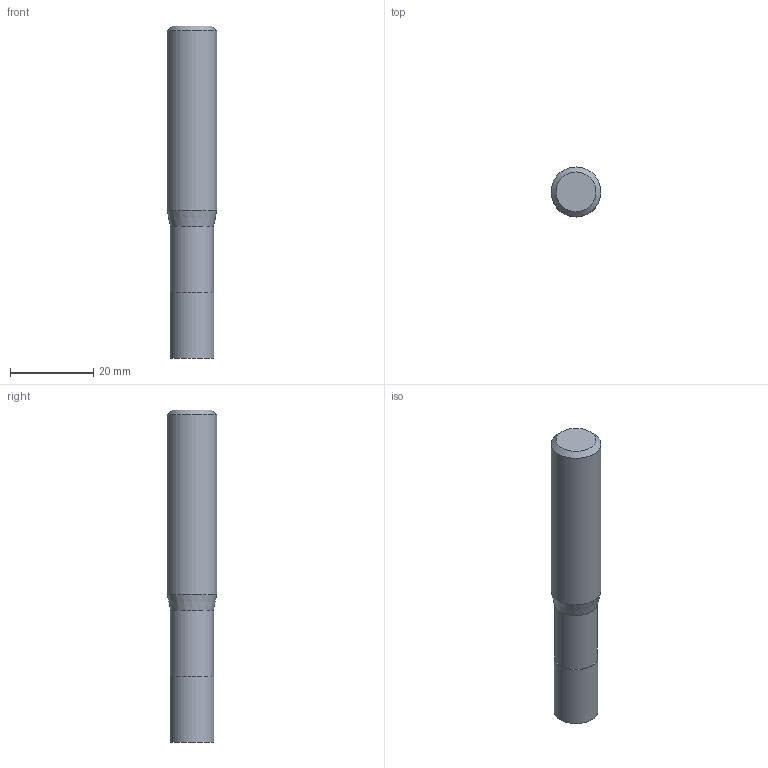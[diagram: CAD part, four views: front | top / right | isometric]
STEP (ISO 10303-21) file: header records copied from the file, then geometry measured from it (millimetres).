
FILE_DESCRIPTION((''),'2;1');
FILE_NAME('C:\Users\nsx150\AppData\Local\Temp\Mastercam 2021\EUJSUNXURU\TEMP.step','2021-04-22T10:30:07',(''),(''),'STEP Write','Mastercam 2021 ... CNC Software, Inc.','');
FILE_SCHEMA(('AUTOMOTIVE_DESIGN'));
Length unit declared in the file: millimetre
Products named in the file (1): None
Bounding box: 12 x 12 x 80 mm (x, y, z)
Volume: 8125.5 mm3; surface area: 3205.7 mm2
Topology: 2 solids, 2 shells, 9 faces, 12 edges, 7 vertices
Faces by surface type: plane 4, cylinder 3, cone 2
Full cylindrical faces by diameter (mm): 10.4 x1, 10.6 x1, 12 x1
Entity records: 211 total; most frequent: DIRECTION 36, CARTESIAN_POINT 25, AXIS2_PLACEMENT_3D 18, ORIENTED_EDGE 14, EDGE_LOOP 14, STYLED_ITEM 12, ADVANCED_FACE 9, FACE_BOUND 8
